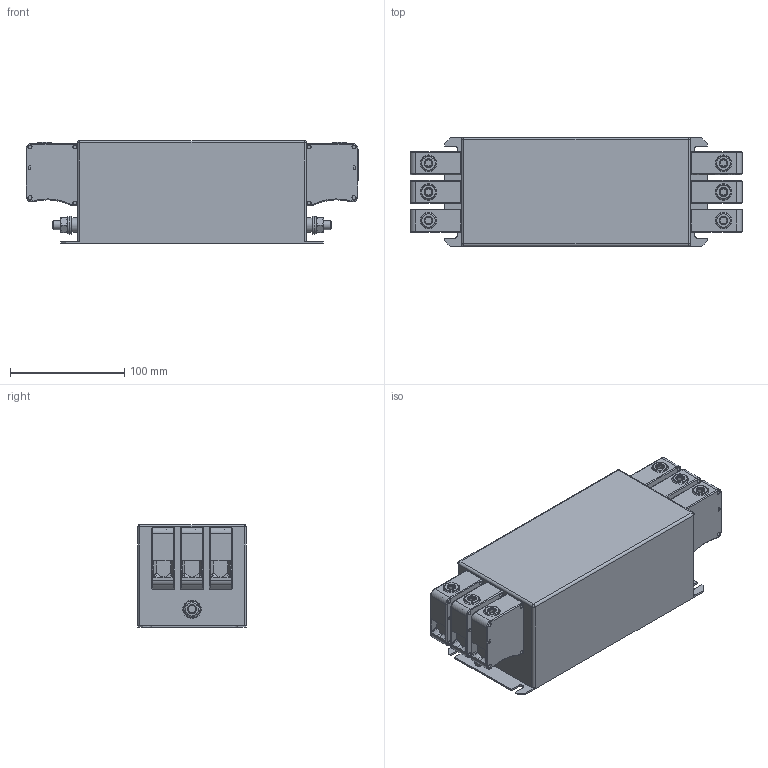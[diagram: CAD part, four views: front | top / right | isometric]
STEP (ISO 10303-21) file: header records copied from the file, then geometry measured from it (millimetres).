
FILE_DESCRIPTION((''),'2;1');
FILE_NAME('L:\INVENTOR_Projektedaten\HousingDesign\FN3270H-100-35.stp','2012-10-12T14:56:40',('Samuel.Meier'),(''),'Autodesk Inventor 2010','Autodesk Inventor 2010','');
FILE_SCHEMA(('AUTOMOTIVE_DESIGN { 1 0 10303 214 1 1 1 1 }'));
Length unit declared in the file: millimetre
Products named in the file (1): Bauteil2
Bounding box: 290.4 x 95 x 90 mm (x, y, z)
Volume: 1986939.9 mm3; surface area: 139219.4 mm2
Topology: 1 solids, 1 shells, 490 faces, 1114 edges, 686 vertices
Faces by surface type: bspline 231, plane 141, cylinder 77, torus 30, cone 7, sphere 4
Full cylindrical faces by diameter (mm): 3.3 x12, 6.8 x3, 8 x4, 8.4 x2, 12.65 x1, 16 x2
Entity records: 16405 total; most frequent: CARTESIAN_POINT 6010, ORIENTED_EDGE 2080, DIRECTION 1754, EDGE_CURVE 1040, VERTEX_POINT 682, AXIS2_PLACEMENT_3D 628, EDGE_LOOP 624, VECTOR 498
